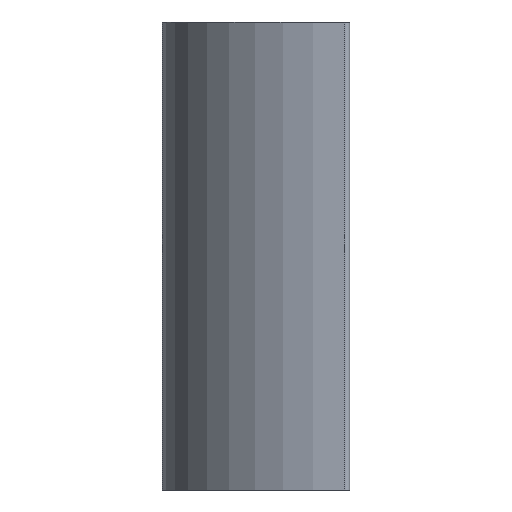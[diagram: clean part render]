
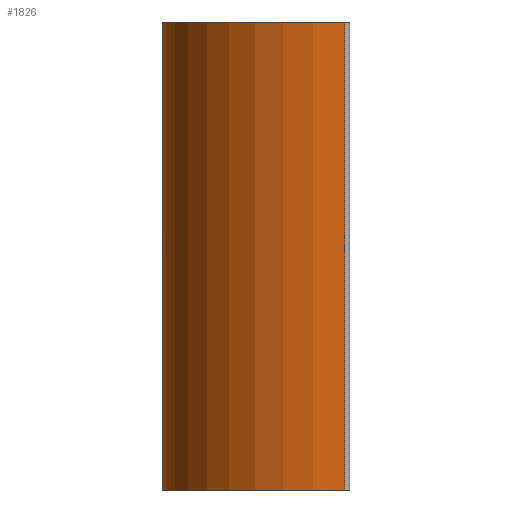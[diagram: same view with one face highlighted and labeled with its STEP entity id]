
A CAD part, left-side view. The second image highlights one B-rep face of the part: STEP entity #1826.
In plain terms, the highlighted cylindrical face has radius 40 mm (diameter 80 mm), a partial arc.
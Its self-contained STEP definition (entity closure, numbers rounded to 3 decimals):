
#6 = VECTOR ( 'NONE', #2109, 1000. ) ;
#86 = FACE_OUTER_BOUND ( 'NONE', #1149, .T. ) ;
#91 = AXIS2_PLACEMENT_3D ( 'NONE', #1539, #2253, #1218 ) ;
#112 = CARTESIAN_POINT ( 'NONE',  ( 18.974, 19.987, -100. ) ) ;
#114 = ORIENTED_EDGE ( 'NONE', *, *, #349, .F. ) ;
#349 = EDGE_CURVE ( 'NONE', #940, #1185, #629, .T. ) ;
#462 = EDGE_CURVE ( 'NONE', #1579, #778, #1936, .T. ) ;
#598 = DIRECTION ( 'NONE',  ( 0., 0., 1. ) ) ;
#629 = LINE ( 'NONE', #112, #1136 ) ;
#657 = CARTESIAN_POINT ( 'NONE',  ( -19.987, -18.974, 0. ) ) ;
#677 = EDGE_CURVE ( 'NONE', #1185, #778, #1546, .T. ) ;
#778 = VERTEX_POINT ( 'NONE', #657 ) ;
#785 = ORIENTED_EDGE ( 'NONE', *, *, #462, .T. ) ;
#839 = CARTESIAN_POINT ( 'NONE',  ( 18.974, 19.987, -100. ) ) ;
#857 = AXIS2_PLACEMENT_3D ( 'NONE', #1457, #598, #1119 ) ;
#871 = CARTESIAN_POINT ( 'NONE',  ( -19.987, -18.974, -100. ) ) ;
#910 = ORIENTED_EDGE ( 'NONE', *, *, #1505, .T. ) ;
#940 = VERTEX_POINT ( 'NONE', #839 ) ;
#1119 = DIRECTION ( 'NONE',  ( 1., 0., 0. ) ) ;
#1136 = VECTOR ( 'NONE', #1318, 1000. ) ;
#1149 = EDGE_LOOP ( 'NONE', ( #1663, #114, #910, #785 ) ) ;
#1155 = DIRECTION ( 'NONE',  ( 1., 0., 0. ) ) ;
#1180 = CARTESIAN_POINT ( 'NONE',  ( -19.987, -18.974, -100. ) ) ;
#1185 = VERTEX_POINT ( 'NONE', #2166 ) ;
#1218 = DIRECTION ( 'NONE',  ( 1., 0., 0. ) ) ;
#1293 = CIRCLE ( 'NONE', #91, 40. ) ;
#1313 = CARTESIAN_POINT ( 'NONE',  ( 20., -20., -100. ) ) ;
#1318 = DIRECTION ( 'NONE',  ( 0., 0., 1. ) ) ;
#1457 = CARTESIAN_POINT ( 'NONE',  ( 20., -20., 0. ) ) ;
#1499 = DIRECTION ( 'NONE',  ( 0., 0., 1. ) ) ;
#1505 = EDGE_CURVE ( 'NONE', #940, #1579, #1293, .T. ) ;
#1539 = CARTESIAN_POINT ( 'NONE',  ( 20., -20., -100. ) ) ;
#1546 = CIRCLE ( 'NONE', #857, 40. ) ;
#1579 = VERTEX_POINT ( 'NONE', #1180 ) ;
#1663 = ORIENTED_EDGE ( 'NONE', *, *, #677, .F. ) ;
#1728 = AXIS2_PLACEMENT_3D ( 'NONE', #1313, #1499, #1155 ) ;
#1826 = ADVANCED_FACE ( 'NONE', ( #86 ), #2197, .T. ) ;
#1936 = LINE ( 'NONE', #871, #6 ) ;
#2109 = DIRECTION ( 'NONE',  ( 0., 0., 1. ) ) ;
#2166 = CARTESIAN_POINT ( 'NONE',  ( 18.974, 19.987, 0. ) ) ;
#2197 = CYLINDRICAL_SURFACE ( 'NONE', #1728, 40. ) ;
#2253 = DIRECTION ( 'NONE',  ( 0., 0., 1. ) ) ;
